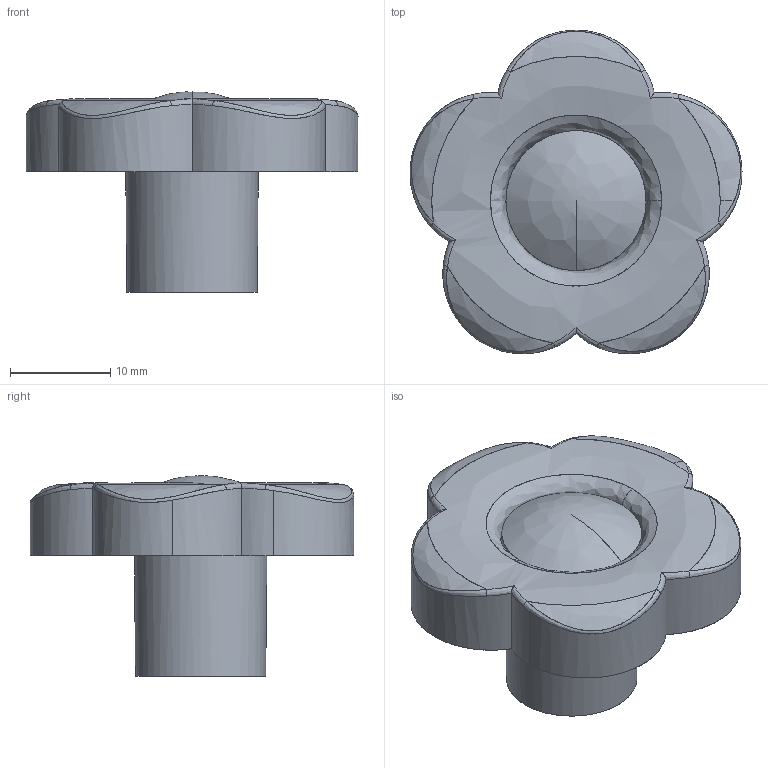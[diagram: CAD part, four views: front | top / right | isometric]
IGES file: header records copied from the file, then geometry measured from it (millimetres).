
Start section: C
Global section: file name: 8117-34.igs; native system: By Siemens PLM Incorporated; preprocessor: XPlus GENERIC/IGES 16.0.42; author: Author; organization: Title; date: 20231126.144700; units: millimetre
Bounding box: 33.12 x 32.28 x 20 mm (x, y, z)
Surface area: 4518.8 mm2 (no closed solid volume)
Topology: 0 solids, 0 shells, 949 faces, 5639 edges, 5638 vertices
Faces by surface type: bspline 949
